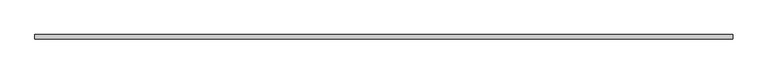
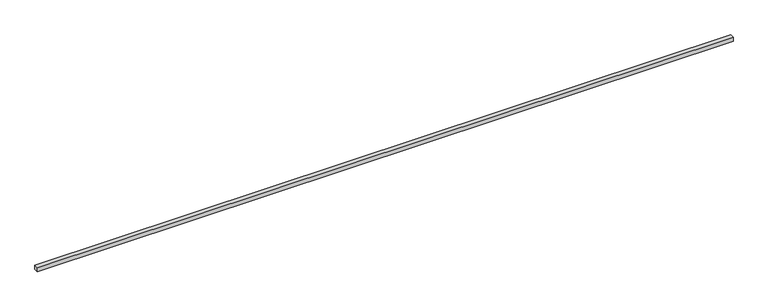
"""IFC4 building model written with IfcOpenShell, lengths in millimetres: light fixture geometry, AI_Luminaire_CONCEPT S_Linéaire : CONCEPTION S."""

from ifc_helpers import new_model, si_unit, frame, origin, place, context, project, spatial, polyline, outline, extrude, source, transform, mapped, element, save


def light_fixture_2e635b03(model_context):
    return source(origin(), model_context, "Body", "SweptSolid", [
        extrude(outline(polyline([(4570.1457629, -27.5), (-4570.1457629, -27.5), (-4570.1457629, 27.5), (4570.1457629, 27.5), (4570.1457629, -27.5)])), frame((0.0, 0.0, -56.0), z_axis=(0.0, 0.0, 1.0), x_axis=(1.0, 0.0, 0.0)), (0.0, 0.0, 1.0), 56.0),
    ])


if __name__ == "__main__":
    model = new_model("IFC4")
    model_context = context("Model", 3, world=origin())
    ifc_project = project(units=[si_unit("LENGTHUNIT", "METRE", prefix="MILLI")], contexts=[model_context])
    site = spatial("IfcSite", under=ifc_project)
    building = spatial("IfcBuilding", under=site)
    placement = place(None, origin())
    light_fixture_shape = light_fixture_2e635b03(model_context)
    element("IfcLightFixture", 1, ObjectType="AI_Luminaire_CONCEPT S_Linéaire : CONCEPTION S", at=placement, inside=building, context=model_context, shape_type="MappedRepresentation", body=[
        mapped(light_fixture_shape, transform((0.0, 0.0, 0.0), x_axis=(1.0, 0.0, 0.0), y_axis=(0.0, 1.0, 0.0), z_axis=(0.0, 0.0, 1.0))),
    ])
    save(model, "model.ifc")
